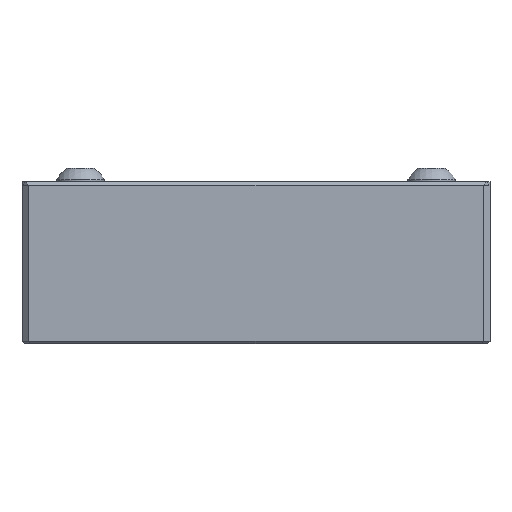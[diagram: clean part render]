
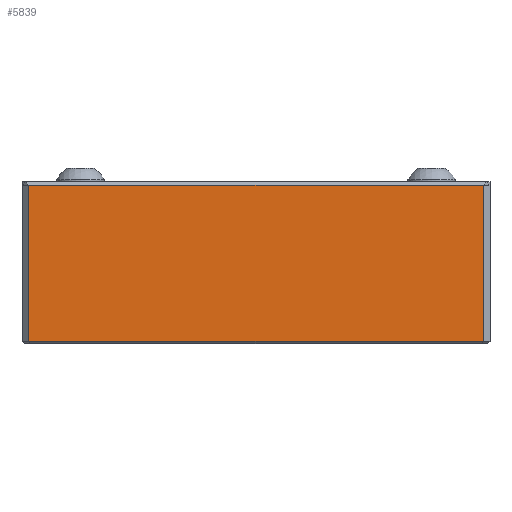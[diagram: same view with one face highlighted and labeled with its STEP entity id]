
A CAD part, front view. The second image highlights one B-rep face of the part: STEP entity #5839.
In plain terms, the highlighted planar face has unit normal (0, -1, 0).
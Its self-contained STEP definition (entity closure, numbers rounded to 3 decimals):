
#85=PLANE('',#6237);
#580=FACE_OUTER_BOUND('',#917,.T.);
#917=EDGE_LOOP('',(#4745,#4746,#4747,#4748));
#1635=LINE('',#15105,#2163);
#1687=LINE('',#15216,#2215);
#1694=LINE('',#15231,#2222);
#1697=LINE('',#15235,#2225);
#2163=VECTOR('',#7071,10.);
#2215=VECTOR('',#7167,10.);
#2222=VECTOR('',#7180,10.);
#2225=VECTOR('',#7185,10.);
#2765=VERTEX_POINT('',#15100);
#2766=VERTEX_POINT('',#15104);
#2801=VERTEX_POINT('',#15208);
#2808=VERTEX_POINT('',#15227);
#3443=EDGE_CURVE('',#2766,#2765,#1635,.T.);
#3499=EDGE_CURVE('',#2801,#2766,#1687,.T.);
#3506=EDGE_CURVE('',#2765,#2808,#1694,.T.);
#3509=EDGE_CURVE('',#2808,#2801,#1697,.T.);
#4745=ORIENTED_EDGE('',*,*,#3443,.F.);
#4746=ORIENTED_EDGE('',*,*,#3499,.F.);
#4747=ORIENTED_EDGE('',*,*,#3509,.F.);
#4748=ORIENTED_EDGE('',*,*,#3506,.F.);
#5839=ADVANCED_FACE('',(#580),#85,.T.);
#6237=AXIS2_PLACEMENT_3D('',#15243,#7194,#7195);
#7071=DIRECTION('',(-1.,0.,0.));
#7167=DIRECTION('',(0.,0.,-1.));
#7180=DIRECTION('',(0.,0.,1.));
#7185=DIRECTION('',(1.,0.,0.));
#7194=DIRECTION('center_axis',(0.,-1.,0.));
#7195=DIRECTION('ref_axis',(-1.,0.,0.));
#15100=CARTESIAN_POINT('',(-2.2,-3.,-2.7));
#15104=CARTESIAN_POINT('',(52.18,-3.,-2.7));
#15105=CARTESIAN_POINT('',(38.985,-3.,-2.7));
#15208=CARTESIAN_POINT('',(52.18,-3.,16.));
#15216=CARTESIAN_POINT('',(52.18,-3.,0.));
#15227=CARTESIAN_POINT('',(-2.2,-3.,16.));
#15231=CARTESIAN_POINT('',(-2.2,-3.,0.));
#15235=CARTESIAN_POINT('',(38.985,-3.,16.));
#15243=CARTESIAN_POINT('Origin',(52.98,-3.,0.));
